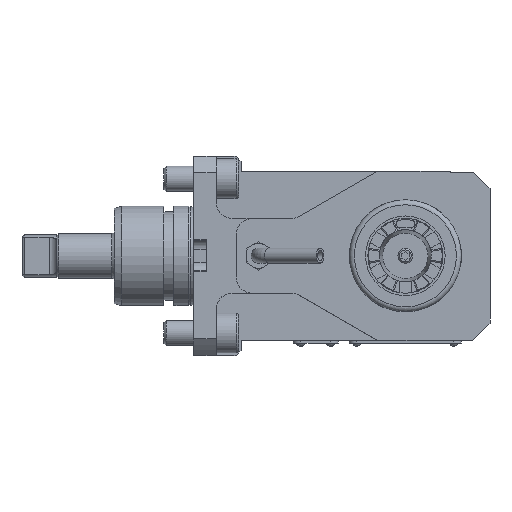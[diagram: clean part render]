
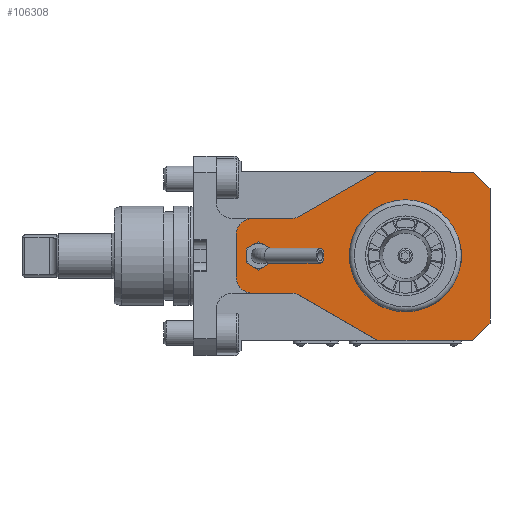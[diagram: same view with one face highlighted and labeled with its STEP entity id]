
A CAD part, top view. The second image highlights one B-rep face of the part: STEP entity #106308.
In plain terms, the highlighted planar face has unit normal (0, 0, 1).
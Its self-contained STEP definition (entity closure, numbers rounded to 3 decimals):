
#25083=VECTOR('',#38895,1.);
#25084=VECTOR('',#38896,1.);
#25085=VECTOR('',#38897,1.);
#25086=VECTOR('',#38898,1.);
#25087=VECTOR('',#38899,1.);
#25088=VECTOR('',#38900,1.);
#25089=VECTOR('',#38901,1.);
#25090=VECTOR('',#38902,1.);
#25091=VECTOR('',#38903,1.);
#25092=VECTOR('',#38906,1.);
#25093=VECTOR('',#38909,1.);
#25094=VECTOR('',#38912,1.);
#26173=LINE('',#46135,#25083);
#26174=LINE('',#46137,#25084);
#26175=LINE('',#46139,#25085);
#26176=LINE('',#46141,#25086);
#26177=LINE('',#46143,#25087);
#26178=LINE('',#46145,#25088);
#26179=LINE('',#46147,#25089);
#26180=LINE('',#46149,#25090);
#26181=LINE('',#46151,#25091);
#26182=LINE('',#46155,#25092);
#26183=LINE('',#46159,#25093);
#26184=LINE('',#46163,#25094);
#27799=ORIENTED_EDGE('',*,*,#34206,.F.);
#27800=ORIENTED_EDGE('',*,*,#34207,.F.);
#27801=ORIENTED_EDGE('',*,*,#34208,.T.);
#27802=ORIENTED_EDGE('',*,*,#34209,.T.);
#27803=ORIENTED_EDGE('',*,*,#34210,.T.);
#27804=ORIENTED_EDGE('',*,*,#34211,.F.);
#27805=ORIENTED_EDGE('',*,*,#34212,.F.);
#27806=ORIENTED_EDGE('',*,*,#34213,.F.);
#27807=ORIENTED_EDGE('',*,*,#34214,.T.);
#27808=ORIENTED_EDGE('',*,*,#34215,.T.);
#27809=ORIENTED_EDGE('',*,*,#34216,.T.);
#27810=ORIENTED_EDGE('',*,*,#34217,.T.);
#27811=ORIENTED_EDGE('',*,*,#34218,.T.);
#27812=ORIENTED_EDGE('',*,*,#34219,.T.);
#27813=ORIENTED_EDGE('',*,*,#34220,.F.);
#27814=ORIENTED_EDGE('',*,*,#34221,.T.);
#27815=ORIENTED_EDGE('',*,*,#34205,.T.);
#27816=ORIENTED_EDGE('',*,*,#34222,.F.);
#32015=CIRCLE('',#104235,4.386);
#32016=CIRCLE('',#104237,6.5);
#32017=CIRCLE('',#104238,6.5);
#32018=CIRCLE('',#104239,6.5);
#32019=CIRCLE('',#104240,6.5);
#32020=CIRCLE('',#104241,22.5);
#32681=VERTEX_POINT('',#46130);
#32682=VERTEX_POINT('',#46133);
#32683=VERTEX_POINT('',#46134);
#32684=VERTEX_POINT('',#46136);
#32685=VERTEX_POINT('',#46138);
#32686=VERTEX_POINT('',#46140);
#32687=VERTEX_POINT('',#46142);
#32688=VERTEX_POINT('',#46144);
#32689=VERTEX_POINT('',#46146);
#32690=VERTEX_POINT('',#46148);
#32691=VERTEX_POINT('',#46150);
#32692=VERTEX_POINT('',#46152);
#32693=VERTEX_POINT('',#46154);
#32694=VERTEX_POINT('',#46156);
#32695=VERTEX_POINT('',#46158);
#32696=VERTEX_POINT('',#46160);
#32697=VERTEX_POINT('',#46162);
#32698=VERTEX_POINT('',#46165);
#34205=EDGE_CURVE('',#32681,#32681,#32015,.T.);
#34206=EDGE_CURVE('',#32682,#32683,#26173,.T.);
#34207=EDGE_CURVE('',#32684,#32682,#26174,.T.);
#34208=EDGE_CURVE('',#32684,#32685,#26175,.T.);
#34209=EDGE_CURVE('',#32685,#32686,#26176,.T.);
#34210=EDGE_CURVE('',#32686,#32687,#26177,.T.);
#34211=EDGE_CURVE('',#32688,#32687,#26178,.T.);
#34212=EDGE_CURVE('',#32689,#32688,#26179,.T.);
#34213=EDGE_CURVE('',#32690,#32689,#26180,.T.);
#34214=EDGE_CURVE('',#32690,#32691,#26181,.T.);
#34215=EDGE_CURVE('',#32691,#32692,#32016,.T.);
#34216=EDGE_CURVE('',#32692,#32693,#26182,.T.);
#34217=EDGE_CURVE('',#32693,#32694,#32017,.T.);
#34218=EDGE_CURVE('',#32694,#32695,#26183,.T.);
#34219=EDGE_CURVE('',#32695,#32696,#32018,.T.);
#34220=EDGE_CURVE('',#32697,#32696,#26184,.T.);
#34221=EDGE_CURVE('',#32697,#32683,#32019,.T.);
#34222=EDGE_CURVE('',#32698,#32698,#32020,.T.);
#36342=EDGE_LOOP('',(#27799,#27800,#27801,#27802,#27803,#27804,#27805,#27806,
#27807,#27808,#27809,#27810,#27811,#27812,#27813,#27814));
#36343=EDGE_LOOP('',(#27815));
#36344=EDGE_LOOP('',(#27816));
#37581=FACE_BOUND('',#36342,.T.);
#37582=FACE_BOUND('',#36343,.T.);
#37583=FACE_BOUND('',#36344,.T.);
#38891=DIRECTION('',(0.,0.,-1.));
#38892=DIRECTION('',(4.386,0.,0.));
#38893=DIRECTION('',(0.,0.,1.));
#38894=DIRECTION('',(0.,-1.,0.));
#38895=DIRECTION('',(-31.401,18.129,0.));
#38896=DIRECTION('',(-38.091,0.,0.));
#38897=DIRECTION('',(7.,7.,0.));
#38898=DIRECTION('',(0.,54.,0.));
#38899=DIRECTION('',(-6.5,6.5,0.));
#38900=DIRECTION('',(9.5,0.,0.));
#38901=DIRECTION('',(0.,-0.5,0.));
#38902=DIRECTION('',(29.091,0.,0.));
#38903=DIRECTION('',(-31.401,-18.129,0.));
#38904=DIRECTION('',(0.,0.,-1.));
#38905=DIRECTION('',(3.25,-5.629,0.));
#38906=DIRECTION('',(-15.758,0.,0.));
#38907=DIRECTION('',(0.,0.,1.));
#38908=DIRECTION('',(0.,6.5,0.));
#38909=DIRECTION('',(0.,-17.,0.));
#38910=DIRECTION('',(0.,0.,1.));
#38911=DIRECTION('',(-6.5,0.,0.));
#38912=DIRECTION('',(-15.758,0.,0.));
#38913=DIRECTION('',(0.,0.,-1.));
#38914=DIRECTION('',(0.,6.5,0.));
#38915=DIRECTION('',(0.,0.,1.));
#38916=DIRECTION('',(-22.5,0.,0.));
#46130=CARTESIAN_POINT('',(30.386,0.,46.5));
#46131=CARTESIAN_POINT('',(26.,0.,46.5));
#46132=CARTESIAN_POINT('',(73.909,-34.,46.5));
#46133=CARTESIAN_POINT('',(73.909,-34.,46.5));
#46134=CARTESIAN_POINT('',(42.508,-15.871,46.5));
#46135=CARTESIAN_POINT('',(73.909,-34.,46.5));
#46136=CARTESIAN_POINT('',(112.,-34.,46.5));
#46137=CARTESIAN_POINT('',(112.,-34.,46.5));
#46138=CARTESIAN_POINT('',(119.,-27.,46.5));
#46139=CARTESIAN_POINT('',(112.,-34.,46.5));
#46140=CARTESIAN_POINT('',(119.,27.,46.5));
#46141=CARTESIAN_POINT('',(119.,-27.,46.5));
#46142=CARTESIAN_POINT('',(112.5,33.5,46.5));
#46143=CARTESIAN_POINT('',(119.,27.,46.5));
#46144=CARTESIAN_POINT('',(103.,33.5,46.5));
#46145=CARTESIAN_POINT('',(103.,33.5,46.5));
#46146=CARTESIAN_POINT('',(103.,34.,46.5));
#46147=CARTESIAN_POINT('',(103.,34.,46.5));
#46148=CARTESIAN_POINT('',(73.909,34.,46.5));
#46149=CARTESIAN_POINT('',(73.909,34.,46.5));
#46150=CARTESIAN_POINT('',(42.508,15.871,46.5));
#46151=CARTESIAN_POINT('',(73.909,34.,46.5));
#46152=CARTESIAN_POINT('',(39.258,15.,46.5));
#46153=CARTESIAN_POINT('',(39.258,21.5,46.5));
#46154=CARTESIAN_POINT('',(23.5,15.,46.5));
#46155=CARTESIAN_POINT('',(39.258,15.,46.5));
#46156=CARTESIAN_POINT('',(17.,8.5,46.5));
#46157=CARTESIAN_POINT('',(23.5,8.5,46.5));
#46158=CARTESIAN_POINT('',(17.,-8.5,46.5));
#46159=CARTESIAN_POINT('',(17.,8.5,46.5));
#46160=CARTESIAN_POINT('',(23.5,-15.,46.5));
#46161=CARTESIAN_POINT('',(23.5,-8.5,46.5));
#46162=CARTESIAN_POINT('',(39.258,-15.,46.5));
#46163=CARTESIAN_POINT('',(39.258,-15.,46.5));
#46164=CARTESIAN_POINT('',(39.258,-21.5,46.5));
#46165=CARTESIAN_POINT('',(62.5,0.,46.5));
#46166=CARTESIAN_POINT('',(85.,0.,46.5));
#104235=AXIS2_PLACEMENT_3D('',#46131,#38891,#38892);
#104236=AXIS2_PLACEMENT_3D('',#46132,#38893,#38894);
#104237=AXIS2_PLACEMENT_3D('',#46153,#38904,#38905);
#104238=AXIS2_PLACEMENT_3D('',#46157,#38907,#38908);
#104239=AXIS2_PLACEMENT_3D('',#46161,#38910,#38911);
#104240=AXIS2_PLACEMENT_3D('',#46164,#38913,#38914);
#104241=AXIS2_PLACEMENT_3D('',#46166,#38915,#38916);
#105802=PLANE('',#104236);
#106308=ADVANCED_FACE('',(#37581,#37582,#37583),#105802,.T.);
